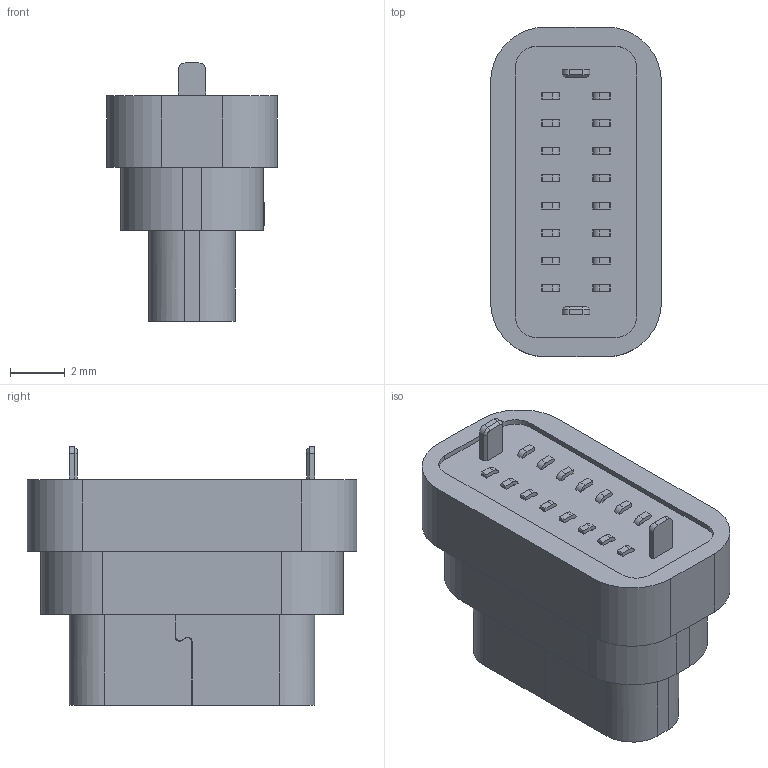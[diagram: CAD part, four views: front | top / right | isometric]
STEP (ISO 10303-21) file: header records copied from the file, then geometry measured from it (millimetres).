
FILE_DESCRIPTION (( 'STEP AP203' ), '1' );
FILE_NAME ('U5401-16PN8.2LF.STEP', '2026-09-22T06:19:58', ( '' ), ( '' ), 'SwSTEP 2.0', 'SolidWorks 2024', '' );
FILE_SCHEMA (( 'CONFIG_CONTROL_DESIGN' ));
Length unit declared in the file: millimetre
Products named in the file (1): U5401-16PN8.2LF
Bounding box: 6.22 x 12 x 9.4 mm (x, y, z)
Volume: 259.5 mm3; surface area: 848.5 mm2
Topology: 1 solids, 5 shells, 778 faces, 2145 edges, 1399 vertices
Faces by surface type: plane 524, cylinder 186, bspline 36, cone 32
Entity records: 26363 total; most frequent: CARTESIAN_POINT 6419, ORIENTED_EDGE 4290, DIRECTION 3917, EDGE_CURVE 2145, LINE 1627, VECTOR 1627, VERTEX_POINT 1399, AXIS2_PLACEMENT_3D 1145
